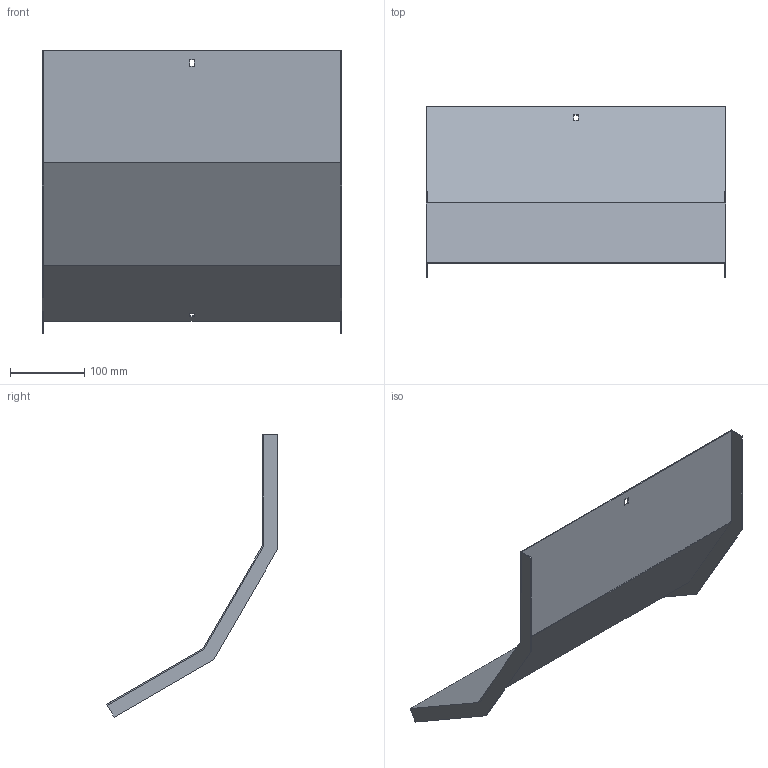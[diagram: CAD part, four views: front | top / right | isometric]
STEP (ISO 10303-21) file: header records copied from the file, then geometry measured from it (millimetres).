
FILE_DESCRIPTION (( 'STEP AP214' ), '1' );
FILE_NAME ('A2X40N3R400X.step', '2025-04-02T08:35:03', ( '' ), ( '' ), 'SwSTEP 2.0', 'SolidWorks 2023', '' );
FILE_SCHEMA (( 'AUTOMOTIVE_DESIGN' ));
Length unit declared in the file: millimetre
Products named in the file (1): A2X40N3R400X
Bounding box: 403 x 229.74 x 380.61 mm (x, y, z)
Volume: 304285.9 mm3; surface area: 408568.2 mm2
Topology: 1 solids, 1 shells, 26 faces, 72 edges, 48 vertices
Faces by surface type: plane 26
Entity records: 847 total; most frequent: CARTESIAN_POINT 147, ORIENTED_EDGE 144, DIRECTION 126, EDGE_CURVE 72, LINE 72, VECTOR 72, VERTEX_POINT 48, EDGE_LOOP 30
